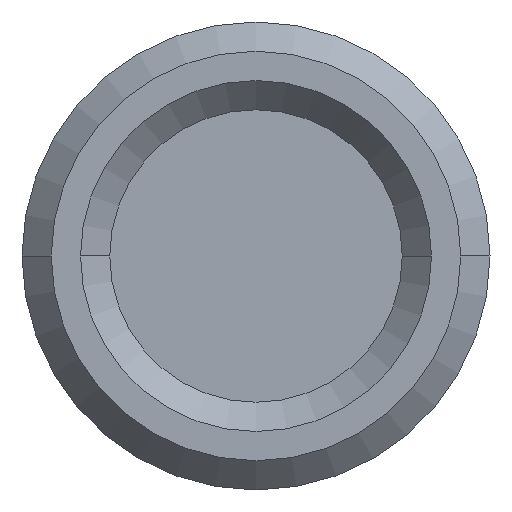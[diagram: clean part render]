
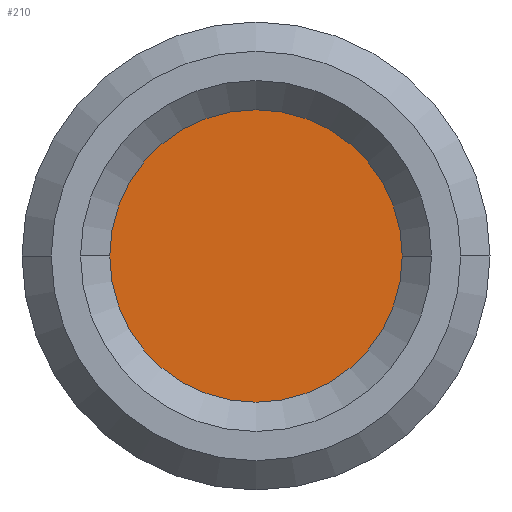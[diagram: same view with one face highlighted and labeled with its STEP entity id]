
A CAD part, front view. The second image highlights one B-rep face of the part: STEP entity #210.
In plain terms, the highlighted planar face has unit normal (0, -1, 0).
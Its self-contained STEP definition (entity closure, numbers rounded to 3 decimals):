
#116 = AXIS2_PLACEMENT_3D ( 'NONE', #2304, #2303, #2298 ) ;
#162 = FACE_OUTER_BOUND ( 'NONE', #2574, .T. ) ;
#210 = ADVANCED_FACE ( 'NONE', ( #162 ), #3516, .T. ) ;
#292 = DIRECTION ( 'NONE',  ( 0., 0., -1. ) ) ;
#301 = DIRECTION ( 'NONE',  ( 0., -1., 0. ) ) ;
#304 = CARTESIAN_POINT ( 'NONE',  ( 0., -94., 0. ) ) ;
#726 = CARTESIAN_POINT ( 'NONE',  ( 0., -94., -5. ) ) ;
#824 = VERTEX_POINT ( 'NONE', #1607 ) ;
#836 = AXIS2_PLACEMENT_3D ( 'NONE', #3502, #3550, #3486 ) ;
#1280 = EDGE_CURVE ( 'NONE', #1673, #824, #3665, .T. ) ;
#1607 = CARTESIAN_POINT ( 'NONE',  ( 0., -94., 5. ) ) ;
#1673 = VERTEX_POINT ( 'NONE', #726 ) ;
#2073 = EDGE_CURVE ( 'NONE', #824, #1673, #3858, .T. ) ;
#2251 = AXIS2_PLACEMENT_3D ( 'NONE', #304, #301, #292 ) ;
#2254 = ORIENTED_EDGE ( 'NONE', *, *, #1280, .T. ) ;
#2275 = ORIENTED_EDGE ( 'NONE', *, *, #2073, .T. ) ;
#2298 = DIRECTION ( 'NONE',  ( 0., 0., -1. ) ) ;
#2303 = DIRECTION ( 'NONE',  ( 0., -1., 0. ) ) ;
#2304 = CARTESIAN_POINT ( 'NONE',  ( 0., -94., 0. ) ) ;
#2574 = EDGE_LOOP ( 'NONE', ( #2254, #2275 ) ) ;
#3486 = DIRECTION ( 'NONE',  ( 0., 0., -1. ) ) ;
#3502 = CARTESIAN_POINT ( 'NONE',  ( 0., -94., 0. ) ) ;
#3516 = PLANE ( 'NONE',  #836 ) ;
#3550 = DIRECTION ( 'NONE',  ( 0., -1., 0. ) ) ;
#3665 = CIRCLE ( 'NONE', #116, 5. ) ;
#3858 = CIRCLE ( 'NONE', #2251, 5. ) ;
